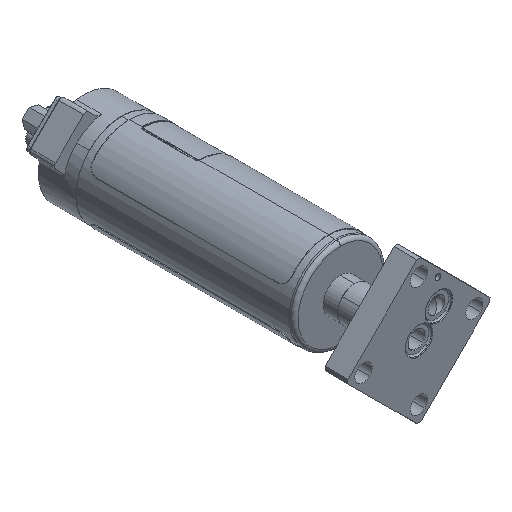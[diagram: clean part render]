
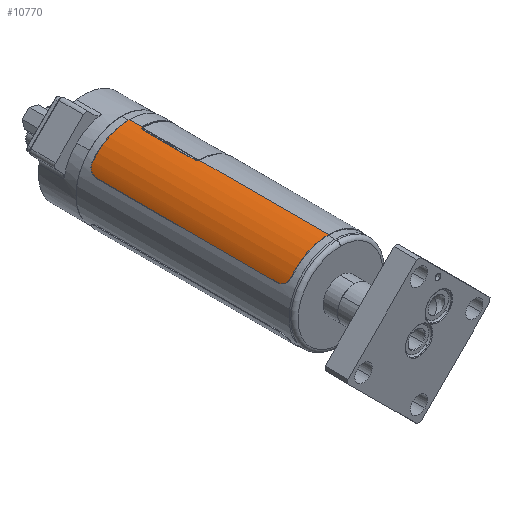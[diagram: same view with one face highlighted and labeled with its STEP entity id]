
A CAD part, isometric view. The second image highlights one B-rep face of the part: STEP entity #10770.
In plain terms, the highlighted cylindrical face has radius 12.878 mm (diameter 25.756 mm), a partial arc.
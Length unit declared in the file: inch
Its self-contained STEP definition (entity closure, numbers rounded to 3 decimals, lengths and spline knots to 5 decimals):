
#401 = LINE ( 'NONE', #14344, #13688 ) ;
#720 = CARTESIAN_POINT ( 'NONE',  ( -0.45216, 2.38668, 0.22941 ) ) ;
#816 = DIRECTION ( 'NONE',  ( 0., 0., -1. ) ) ;
#888 = CARTESIAN_POINT ( 'NONE',  ( -0.4533, 0.38937, 0.22709 ) ) ;
#1210 = CARTESIAN_POINT ( 'NONE',  ( -0.4287, 2.44799, 0.27095 ) ) ;
#1280 = EDGE_CURVE ( 'NONE', #2321, #2279, #4832, .T. ) ;
#1581 = CARTESIAN_POINT ( 'NONE',  ( 0., 2.46063, 0.507 ) ) ;
#1599 = CARTESIAN_POINT ( 'NONE',  ( -0.01987, 2.28346, 0.50661 ) ) ;
#1600 = ORIENTED_EDGE ( 'NONE', *, *, #3275, .F. ) ;
#1741 = CARTESIAN_POINT ( 'NONE',  ( 0., 0., 0.507 ) ) ;
#1750 = ORIENTED_EDGE ( 'NONE', *, *, #3129, .F. ) ;
#1922 = CARTESIAN_POINT ( 'NONE',  ( -0.44158, 2.4267, 0.24916 ) ) ;
#2101 = CARTESIAN_POINT ( 'NONE',  ( 0., 2.31752, 0.507 ) ) ;
#2279 = VERTEX_POINT ( 'NONE', #6017 ) ;
#2311 = CARTESIAN_POINT ( 'NONE',  ( -0.39915, 2.46063, 0.31262 ) ) ;
#2321 = VERTEX_POINT ( 'NONE', #6551 ) ;
#2739 = VERTEX_POINT ( 'NONE', #9671 ) ;
#2799 = LINE ( 'NONE', #1741, #7137 ) ;
#2831 = DIRECTION ( 'NONE',  ( 0., -1., 0. ) ) ;
#2897 = CARTESIAN_POINT ( 'NONE',  ( -0.01192, 1.70814, 0.50687 ) ) ;
#2999 = CARTESIAN_POINT ( 'NONE',  ( -0.01987, 2.28346, 0.50661 ) ) ;
#3048 = CARTESIAN_POINT ( 'NONE',  ( 0., 2.46063, 0. ) ) ;
#3121 = ORIENTED_EDGE ( 'NONE', *, *, #14326, .F. ) ;
#3129 = EDGE_CURVE ( 'NONE', #4252, #2321, #401, .T. ) ;
#3147 = CARTESIAN_POINT ( 'NONE',  ( 0., 0., 0. ) ) ;
#3151 = CARTESIAN_POINT ( 'NONE',  ( -0.01886, 2.29371, 0.50665 ) ) ;
#3224 = CARTESIAN_POINT ( 'NONE',  ( -0.44744, 0.33897, 0.23848 ) ) ;
#3275 = EDGE_CURVE ( 'NONE', #4926, #8074, #7247, .T. ) ;
#3299 = FACE_OUTER_BOUND ( 'NONE', #11664, .T. ) ;
#3309 = VECTOR ( 'NONE', #2831, 39.37008 ) ;
#3480 = CARTESIAN_POINT ( 'NONE',  ( -0.4533, 0.38937, 0.22709 ) ) ;
#4010 = DIRECTION ( 'NONE',  ( 0., -1., 0. ) ) ;
#4102 = CARTESIAN_POINT ( 'NONE',  ( -0.00298, 1.69993, 0.507 ) ) ;
#4105 = CARTESIAN_POINT ( 'NONE',  ( -0.44715, 2.41073, 0.23899 ) ) ;
#4150 = VERTEX_POINT ( 'NONE', #2311 ) ;
#4186 = CARTESIAN_POINT ( 'NONE',  ( -0.39915, 2.46063, 0.31262 ) ) ;
#4252 = VERTEX_POINT ( 'NONE', #1599 ) ;
#4353 = CARTESIAN_POINT ( 'NONE',  ( -0.45096, 0.35717, 0.23171 ) ) ;
#4650 = CARTESIAN_POINT ( 'NONE',  ( -0.39915, 0.28937, 0.31262 ) ) ;
#4832 = B_SPLINE_CURVE_WITH_KNOTS ( 'NONE', 3,
 ( #5231, #8854, #14436, #13169, #2897, #13246, #4102, #13098 ),
 .UNSPECIFIED., .F., .F.,
 ( 4, 2, 2, 4 ),
 ( 0., 0.25, 0.5, 0.66538 ),
 .UNSPECIFIED. ) ;
#4926 = VERTEX_POINT ( 'NONE', #10357 ) ;
#5169 = ORIENTED_EDGE ( 'NONE', *, *, #11513, .T. ) ;
#5224 = CARTESIAN_POINT ( 'NONE',  ( -0.4533, 2.36063, 0.22709 ) ) ;
#5231 = CARTESIAN_POINT ( 'NONE',  ( -0.01987, 1.73228, 0.50661 ) ) ;
#5306 = CARTESIAN_POINT ( 'NONE',  ( -0.41847, 2.45553, 0.2863 ) ) ;
#5423 = AXIS2_PLACEMENT_3D ( 'NONE', #3147, #7901, #816 ) ;
#5477 = CARTESIAN_POINT ( 'NONE',  ( -0.41484, 2.45745, 0.29154 ) ) ;
#5716 = CARTESIAN_POINT ( 'NONE',  ( -0.42844, 0.30258, 0.27114 ) ) ;
#6017 = CARTESIAN_POINT ( 'NONE',  ( 0., 1.69823, 0.507 ) ) ;
#6197 = ORIENTED_EDGE ( 'NONE', *, *, #13576, .T. ) ;
#6534 = AXIS2_PLACEMENT_3D ( 'NONE', #11153, #8837, #8995 ) ;
#6551 = CARTESIAN_POINT ( 'NONE',  ( -0.01987, 1.73228, 0.50661 ) ) ;
#6625 = CARTESIAN_POINT ( 'NONE',  ( -0.45301, 0.37621, 0.22768 ) ) ;
#6724 = VERTEX_POINT ( 'NONE', #3480 ) ;
#6894 = CARTESIAN_POINT ( 'NONE',  ( -0.4533, 2.36063, 0.22709 ) ) ;
#6997 = EDGE_CURVE ( 'NONE', #2739, #4252, #10229, .T. ) ;
#7137 = VECTOR ( 'NONE', #14406, 39.37008 ) ;
#7241 = VERTEX_POINT ( 'NONE', #1581 ) ;
#7247 = CIRCLE ( 'NONE', #6534, 0.507 ) ;
#7571 = CARTESIAN_POINT ( 'NONE',  ( -0.4033, 2.46062, 0.30731 ) ) ;
#7901 = DIRECTION ( 'NONE',  ( 0., -1., 0. ) ) ;
#8074 = VERTEX_POINT ( 'NONE', #10960 ) ;
#8180 = CARTESIAN_POINT ( 'NONE',  ( -0.40746, 0.28938, 0.30201 ) ) ;
#8234 = B_SPLINE_CURVE_WITH_KNOTS ( 'NONE', 3,
 ( #888, #13494, #6625, #10064, #4353, #3224, #12377, #10138, #11331, #5716, #10562, #11618, #8180, #4650 ),
 .UNSPECIFIED., .F., .F.,
 ( 4, 2, 2, 2, 2, 2, 4 ),
 ( 0., 0.125, 0.25, 0.5, 0.625, 0.75, 1. ),
 .UNSPECIFIED. ) ;
#8255 = EDGE_CURVE ( 'NONE', #4150, #14494, #13757, .T. ) ;
#8556 = LINE ( 'NONE', #14367, #11714 ) ;
#8718 = CARTESIAN_POINT ( 'NONE',  ( -0.01193, 2.30761, 0.50687 ) ) ;
#8837 = DIRECTION ( 'NONE',  ( 0., -1., 0. ) ) ;
#8854 = CARTESIAN_POINT ( 'NONE',  ( -0.01986, 1.727, 0.50661 ) ) ;
#8880 = CARTESIAN_POINT ( 'NONE',  ( -0.00571, 2.31375, 0.50697 ) ) ;
#8995 = DIRECTION ( 'NONE',  ( 0., 0., -1. ) ) ;
#9325 = ORIENTED_EDGE ( 'NONE', *, *, #13251, .T. ) ;
#9671 = CARTESIAN_POINT ( 'NONE',  ( 0., 2.31752, 0.507 ) ) ;
#9877 = ORIENTED_EDGE ( 'NONE', *, *, #1280, .F. ) ;
#9976 = CARTESIAN_POINT ( 'NONE',  ( -0.4486, 2.40501, 0.23624 ) ) ;
#10051 = CARTESIAN_POINT ( 'NONE',  ( -0.44362, 2.42165, 0.24549 ) ) ;
#10064 = CARTESIAN_POINT ( 'NONE',  ( -0.45184, 0.36345, 0.22997 ) ) ;
#10138 = CARTESIAN_POINT ( 'NONE',  ( -0.43687, 0.31402, 0.25732 ) ) ;
#10213 = CYLINDRICAL_SURFACE ( 'NONE', #5423, 0.507 ) ;
#10229 = B_SPLINE_CURVE_WITH_KNOTS ( 'NONE', 3,
 ( #2101, #10961, #8880, #8718, #13273, #3151, #12233, #2999 ),
 .UNSPECIFIED., .F., .F.,
 ( 4, 2, 2, 4 ),
 ( 0.3346, 0.5, 0.75, 1. ),
 .UNSPECIFIED. ) ;
#10342 = ORIENTED_EDGE ( 'NONE', *, *, #8255, .T. ) ;
#10357 = CARTESIAN_POINT ( 'NONE',  ( 0., 0.28937, 0.507 ) ) ;
#10562 = CARTESIAN_POINT ( 'NONE',  ( -0.42532, 0.29951, 0.27603 ) ) ;
#10701 = ORIENTED_EDGE ( 'NONE', *, *, #6997, .F. ) ;
#10770 = ADVANCED_FACE ( 'NONE', ( #3299 ), #10213, .T. ) ;
#10960 = CARTESIAN_POINT ( 'NONE',  ( -0.39915, 0.28937, 0.31262 ) ) ;
#10961 = CARTESIAN_POINT ( 'NONE',  ( -0.00298, 2.31582, 0.507 ) ) ;
#11153 = CARTESIAN_POINT ( 'NONE',  ( 0., 0.28937, 0. ) ) ;
#11306 = DIRECTION ( 'NONE',  ( 0., -1., 0. ) ) ;
#11331 = CARTESIAN_POINT ( 'NONE',  ( -0.43426, 0.30987, 0.26172 ) ) ;
#11485 = AXIS2_PLACEMENT_3D ( 'NONE', #3048, #11306, #12692 ) ;
#11513 = EDGE_CURVE ( 'NONE', #6724, #8074, #8234, .T. ) ;
#11618 = CARTESIAN_POINT ( 'NONE',  ( -0.41501, 0.29192, 0.29149 ) ) ;
#11664 = EDGE_LOOP ( 'NONE', ( #3121, #6197, #10342, #9325, #5169, #1600, #13673, #9877, #1750, #10701 ) ) ;
#11714 = VECTOR ( 'NONE', #14527, 39.37008 ) ;
#12003 = EDGE_CURVE ( 'NONE', #2279, #4926, #2799, .T. ) ;
#12136 = CARTESIAN_POINT ( 'NONE',  ( -0.43452, 2.44062, 0.2614 ) ) ;
#12213 = CARTESIAN_POINT ( 'NONE',  ( -0.45329, 2.37393, 0.2271 ) ) ;
#12233 = CARTESIAN_POINT ( 'NONE',  ( -0.01987, 2.28869, 0.50661 ) ) ;
#12377 = CARTESIAN_POINT ( 'NONE',  ( -0.44393, 0.32794, 0.24508 ) ) ;
#12636 = CARTESIAN_POINT ( 'NONE',  ( -0.40727, 2.45998, 0.30203 ) ) ;
#12692 = DIRECTION ( 'NONE',  ( 0., 0., -1. ) ) ;
#13098 = CARTESIAN_POINT ( 'NONE',  ( 0., 1.69823, 0.507 ) ) ;
#13103 = LINE ( 'NONE', #13177, #3309 ) ;
#13169 = CARTESIAN_POINT ( 'NONE',  ( -0.01481, 1.71239, 0.50679 ) ) ;
#13177 = CARTESIAN_POINT ( 'NONE',  ( -0.4533, 0., 0.22709 ) ) ;
#13246 = CARTESIAN_POINT ( 'NONE',  ( -0.00571, 1.702, 0.50697 ) ) ;
#13251 = EDGE_CURVE ( 'NONE', #14494, #6724, #13103, .T. ) ;
#13273 = CARTESIAN_POINT ( 'NONE',  ( -0.01481, 2.30335, 0.50679 ) ) ;
#13494 = CARTESIAN_POINT ( 'NONE',  ( -0.45329, 0.38272, 0.2271 ) ) ;
#13576 = EDGE_CURVE ( 'NONE', #7241, #4150, #14817, .T. ) ;
#13673 = ORIENTED_EDGE ( 'NONE', *, *, #12003, .F. ) ;
#13688 = VECTOR ( 'NONE', #4010, 39.37008 ) ;
#13757 = B_SPLINE_CURVE_WITH_KNOTS ( 'NONE', 3,
 ( #4186, #7571, #12636, #5477, #5306, #1210, #12136, #1922, #10051, #4105, #9976, #720, #12213, #6894 ),
 .UNSPECIFIED., .F., .F.,
 ( 4, 2, 2, 2, 2, 2, 4 ),
 ( 0., 0.125, 0.25, 0.5, 0.625, 0.75, 1. ),
 .UNSPECIFIED. ) ;
#14326 = EDGE_CURVE ( 'NONE', #7241, #2739, #8556, .T. ) ;
#14344 = CARTESIAN_POINT ( 'NONE',  ( -0.01987, 0., 0.50661 ) ) ;
#14367 = CARTESIAN_POINT ( 'NONE',  ( 0., 0., 0.507 ) ) ;
#14406 = DIRECTION ( 'NONE',  ( 0., -1., 0. ) ) ;
#14436 = CARTESIAN_POINT ( 'NONE',  ( -0.01886, 1.72204, 0.50665 ) ) ;
#14494 = VERTEX_POINT ( 'NONE', #5224 ) ;
#14527 = DIRECTION ( 'NONE',  ( 0., -1., 0. ) ) ;
#14817 = CIRCLE ( 'NONE', #11485, 0.507 ) ;
